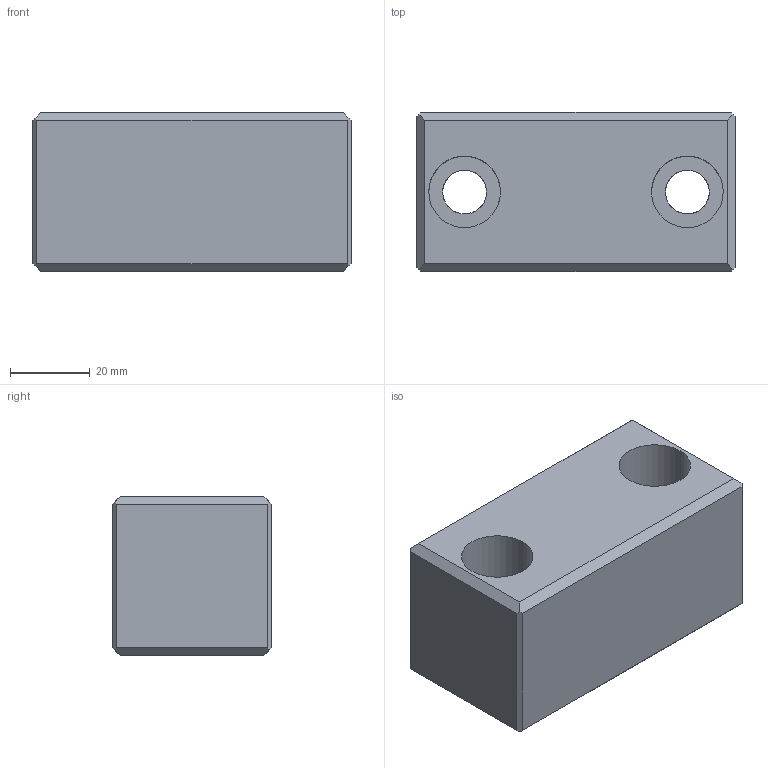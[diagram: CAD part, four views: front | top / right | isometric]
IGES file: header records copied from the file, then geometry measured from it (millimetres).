
Start section: START RECORD GO HERE.
Global section: file name: 759+80+40+40+8.igs; native system: DASSAULT SYSTEMES CATIA V5 R20 - www.3ds.com; preprocessor: CATIA Version 5 Release 20 ; author: Utente; organization: NB04-ASUS; date: 20201027.211156; units: millimetre
Bounding box: 80 x 40 x 40 mm (x, y, z)
Surface area: 19129.1 mm2 (no closed solid volume)
Topology: 0 solids, 0 shells, 28 faces, 144 edges, 144 vertices
Faces by surface type: plane 20, revolution 8
